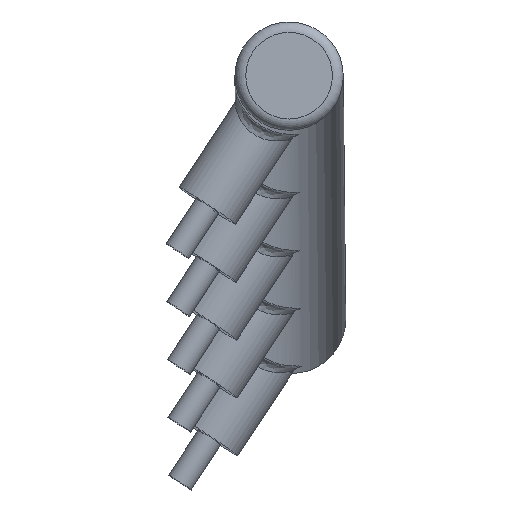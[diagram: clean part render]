
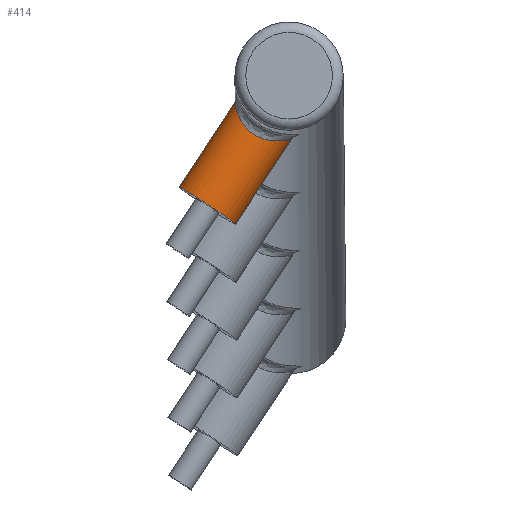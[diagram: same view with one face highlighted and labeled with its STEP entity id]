
A CAD part, left-side view. The second image highlights one B-rep face of the part: STEP entity #414.
In plain terms, the highlighted cylindrical face has radius 0.625 mm (diameter 1.25 mm), a full revolution.
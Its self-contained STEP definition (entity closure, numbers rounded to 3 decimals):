
#55=B_SPLINE_CURVE_WITH_KNOTS('',3,(#1423,#1424,#1425,#1426,#1427,#1428,
#1429,#1430),.UNSPECIFIED.,.F.,.F.,(4,1,1,1,1,4),(0.283,0.306,
0.334,0.348,0.362,0.39),
 .UNSPECIFIED.);
#56=B_SPLINE_CURVE_WITH_KNOTS('',3,(#1431,#1432,#1433,#1434,#1435,#1436,
#1437,#1438,#1439,#1440,#1441,#1442,#1443,#1444,#1445,#1446,#1447),
 .UNSPECIFIED.,.F.,.F.,(4,1,1,1,1,1,1,1,1,1,1,1,1,1,4),(0.,0.028,
0.056,0.084,0.111,0.125,
0.139,0.16,0.167,0.195,
0.223,0.237,0.251,0.279,
0.283),.UNSPECIFIED.);
#66=LINE('',#1451,#77);
#77=VECTOR('',#592,0.6);
#88=CYLINDRICAL_SURFACE('',#478,0.625);
#116=FACE_OUTER_BOUND('',#155,.T.);
#155=EDGE_LOOP('',(#374,#375,#376,#377,#378));
#185=CIRCLE('',#479,0.625);
#219=VERTEX_POINT('',#1420);
#220=VERTEX_POINT('',#1422);
#221=VERTEX_POINT('',#1449);
#271=EDGE_CURVE('',#220,#219,#55,.T.);
#272=EDGE_CURVE('',#219,#220,#56,.T.);
#273=EDGE_CURVE('',#221,#221,#185,.T.);
#274=EDGE_CURVE('',#221,#220,#66,.T.);
#374=ORIENTED_EDGE('',*,*,#273,.T.);
#375=ORIENTED_EDGE('',*,*,#274,.T.);
#376=ORIENTED_EDGE('',*,*,#271,.T.);
#377=ORIENTED_EDGE('',*,*,#272,.T.);
#378=ORIENTED_EDGE('',*,*,#274,.F.);
#414=ADVANCED_FACE('',(#116),#88,.T.);
#478=AXIS2_PLACEMENT_3D('',#1448,#588,#589);
#479=AXIS2_PLACEMENT_3D('',#1450,#590,#591);
#588=DIRECTION('center_axis',(0.035,-0.549,0.835));
#589=DIRECTION('ref_axis',(0.99,0.135,0.046));
#590=DIRECTION('center_axis',(0.035,-0.549,0.835));
#591=DIRECTION('ref_axis',(0.99,0.135,0.046));
#592=DIRECTION('',(0.035,-0.549,0.835));
#1420=CARTESIAN_POINT('',(-178.72,-72.64,68.737));
#1422=CARTESIAN_POINT('',(-179.365,-73.07,68.096));
#1423=CARTESIAN_POINT('Ctrl Pts',(-179.365,-73.07,68.096));
#1424=CARTESIAN_POINT('Ctrl Pts',(-179.377,-72.996,68.131));
#1425=CARTESIAN_POINT('Ctrl Pts',(-179.366,-72.845,68.237));
#1426=CARTESIAN_POINT('Ctrl Pts',(-179.255,-72.728,68.419));
#1427=CARTESIAN_POINT('Ctrl Pts',(-179.12,-72.674,68.563));
#1428=CARTESIAN_POINT('Ctrl Pts',(-178.962,-72.644,68.689));
#1429=CARTESIAN_POINT('Ctrl Pts',(-178.817,-72.64,68.741));
#1430=CARTESIAN_POINT('Ctrl Pts',(-178.72,-72.64,68.737));
#1431=CARTESIAN_POINT('Ctrl Pts',(-178.72,-72.64,68.737));
#1432=CARTESIAN_POINT('Ctrl Pts',(-178.623,-72.64,68.733));
#1433=CARTESIAN_POINT('Ctrl Pts',(-178.438,-72.645,68.646));
#1434=CARTESIAN_POINT('Ctrl Pts',(-178.235,-72.703,68.414));
#1435=CARTESIAN_POINT('Ctrl Pts',(-178.114,-72.853,68.172));
#1436=CARTESIAN_POINT('Ctrl Pts',(-178.12,-73.064,68.032));
#1437=CARTESIAN_POINT('Ctrl Pts',(-178.188,-73.246,67.986));
#1438=CARTESIAN_POINT('Ctrl Pts',(-178.276,-73.4,67.976));
#1439=CARTESIAN_POINT('Ctrl Pts',(-178.377,-73.516,67.993));
#1440=CARTESIAN_POINT('Ctrl Pts',(-178.534,-73.639,68.025));
#1441=CARTESIAN_POINT('Ctrl Pts',(-178.75,-73.721,68.063));
#1442=CARTESIAN_POINT('Ctrl Pts',(-178.992,-73.63,68.041));
#1443=CARTESIAN_POINT('Ctrl Pts',(-179.145,-73.496,68.022));
#1444=CARTESIAN_POINT('Ctrl Pts',(-179.274,-73.338,68.018));
#1445=CARTESIAN_POINT('Ctrl Pts',(-179.344,-73.185,68.045));
#1446=CARTESIAN_POINT('Ctrl Pts',(-179.363,-73.083,68.089));
#1447=CARTESIAN_POINT('Ctrl Pts',(-179.365,-73.07,68.096));
#1448=CARTESIAN_POINT('Origin',(-178.745,-73.009,68.16));
#1449=CARTESIAN_POINT('',(-179.42,-72.215,66.796));
#1450=CARTESIAN_POINT('Origin',(-178.802,-72.131,66.825));
#1451=CARTESIAN_POINT('',(-179.364,-73.093,68.131));
